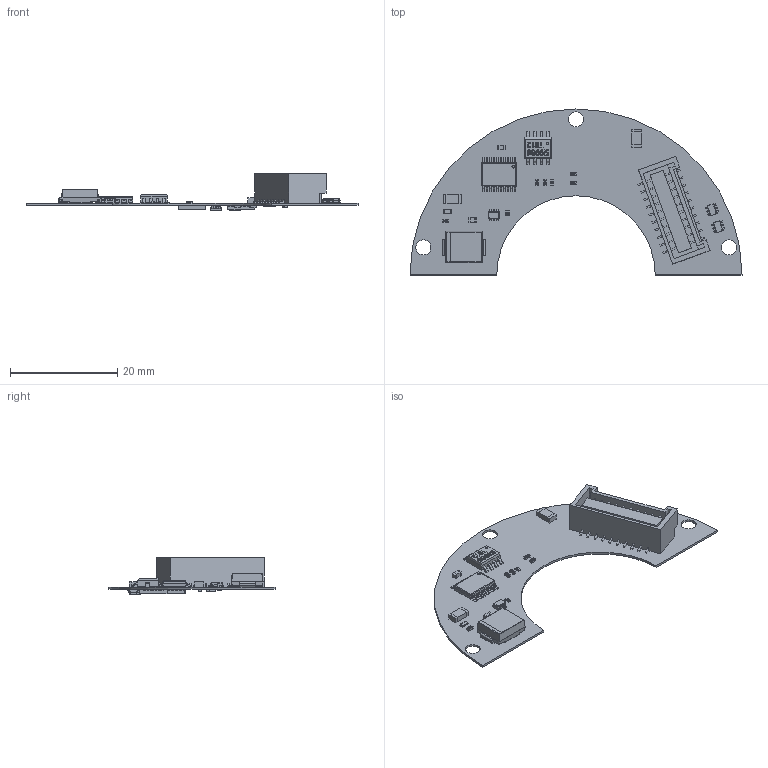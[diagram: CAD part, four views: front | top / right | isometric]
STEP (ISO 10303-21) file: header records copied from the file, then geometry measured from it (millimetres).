
FILE_DESCRIPTION(('Open CASCADE Model'),'2;1');
FILE_NAME('Open CASCADE Shape Model','2023-06-05T22:39:38',('Author'),( 'Open CASCADE'),'Open CASCADE STEP processor 6.8','Open CASCADE 6.8' ,'Unknown');
FILE_SCHEMA(('AUTOMOTIVE_DESIGN { 1 0 10303 214 1 1 1 1 }'));
Length unit declared in the file: millimetre
Products named in the file (78): PCB; Board; Open CASCADE STEP translator 6.8 1.1.1; R8; RES_1005-0402; R7; U4; Silicon_Labs_-_32-QFN_5x5; U3; User_Library-My-DFN-16-5x5-0_5; Part_18; Part_19; Part_17; 7; 8; Body; 14; 13; 2; 1; 9; 11; 3; 12; 4; 6; 10; 5; TP; U2; SOIC-8; U1; TSSOP-20-TI-PW; R9; R6; R5; R4; R3; R2; R1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
Assembly tree (100 placements, depth 4):
  PCB
    Board
      Open CASCADE STEP translator 6.8 1.1.1
    R8
      RES_1005-0402
    R7
      RES_1005-0402
    U4
      Silicon_Labs_-_32-QFN_5x5
    U3
      User_Library-My-DFN-16-5x5-0_5
        Part_18
        Part_19
        Part_17
        7
        8
        Body
        14
        13
        2
        1
        9
        11
        3
        12
        4
        6
        10
        5
        TP
    U2
      SOIC-8
    U1
      TSSOP-20-TI-PW
    R9
      RES_1005-0402
    R6
      RES_1005-0402
    R5
      RES_1005-0402
    R4
      RES_1005-0402
    R3
      RES_1005-0402
    R2
      RES_1005-0402
    R1
      RES_1005-0402
    D8
      User_Library-SC70-6
    D7
      User_Library-SC70-6
    D6
      User_Library-SC70-6
    D5
      SMC
    D4
      6271209216
        Extruded
      6271215056
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Bounding box: 62 x 31 x 6.89 mm (x, y, z)
Volume: 1197.1 mm3; surface area: 4069 mm2
Topology: 86 solids, 86 shells, 3740 faces, 9594 edges, 6039 vertices
Faces by surface type: plane 2442, cylinder 675, bspline 434, sphere 189
Full cylindrical faces by diameter (mm): 0.5 x1
Entity records: 77973 total; most frequent: CARTESIAN_POINT 18553, ORIENTED_EDGE 10350, DIRECTION 9464, EDGE_CURVE 5175, LINE 4080, VECTOR 4080, VERTEX_POINT 3325, AXIS2_PLACEMENT_3D 2692
